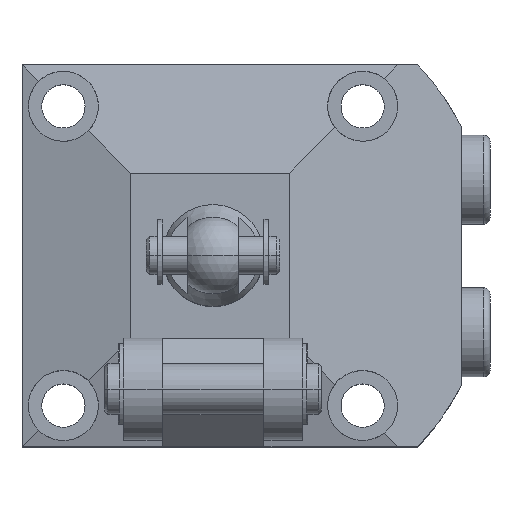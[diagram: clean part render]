
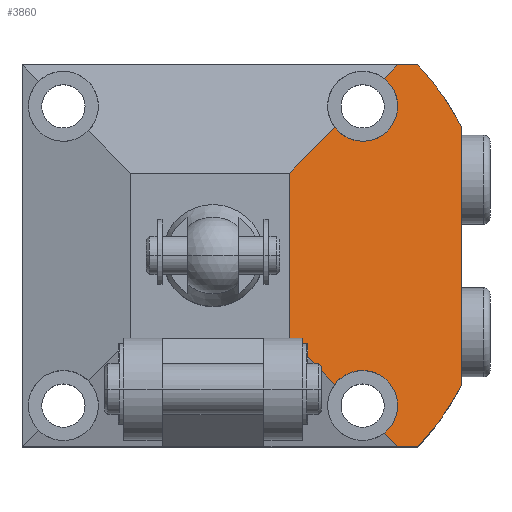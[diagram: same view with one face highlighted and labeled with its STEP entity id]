
A CAD part, top view. The second image highlights one B-rep face of the part: STEP entity #3860.
In plain terms, the highlighted planar face has unit normal (0.259, 0, 0.966).
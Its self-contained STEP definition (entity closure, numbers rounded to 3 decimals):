
#21 = ORIENTED_EDGE ( 'NONE', *, *, #3814, .T. ) ;
#28 =( BOUNDED_CURVE ( )  B_SPLINE_CURVE ( 3, ( #5653, #1275, #2536, #6872 ),
 .UNSPECIFIED., .F., .F. ) 
 B_SPLINE_CURVE_WITH_KNOTS ( ( 4, 4 ),
 ( 3.623, 3.892 ),
 .UNSPECIFIED. ) 
 CURVE ( )  GEOMETRIC_REPRESENTATION_ITEM ( )  RATIONAL_B_SPLINE_CURVE ( ( 1., 0.994, 0.994, 1. ) ) 
 REPRESENTATION_ITEM ( '' )  );
#111 = ORIENTED_EDGE ( 'NONE', *, *, #4269, .T. ) ;
#265 = CARTESIAN_POINT ( 'NONE',  ( 25.033, 26.033, 63.508 ) ) ;
#278 = EDGE_CURVE ( 'NONE', #1420, #844, #5187, .T. ) ;
#453 = DIRECTION ( 'NONE',  ( 0., -1., 0. ) ) ;
#518 = LINE ( 'NONE', #6997, #5329 ) ;
#574 = CARTESIAN_POINT ( 'NONE',  ( 26.857, 27.857, 63.019 ) ) ;
#591 = CARTESIAN_POINT ( 'NONE',  ( 28.233, -26.796, 62.65 ) ) ;
#732 = EDGE_LOOP ( 'NONE', ( #6107, #2506, #5637, #1609, #6755, #5541, #111, #2014, #21, #4357, #5908, #3096, #7916, #2403 ) ) ;
#757 = VERTEX_POINT ( 'NONE', #2388 ) ;
#833 =( BOUNDED_CURVE ( )  B_SPLINE_CURVE ( 3, ( #4918, #1153, #6760, #3057 ),
 .UNSPECIFIED., .F., .F. ) 
 B_SPLINE_CURVE_WITH_KNOTS ( ( 4, 4 ),
 ( 2.391, 2.66 ),
 .UNSPECIFIED. ) 
 CURVE ( )  GEOMETRIC_REPRESENTATION_ITEM ( )  RATIONAL_B_SPLINE_CURVE ( ( 1., 0.994, 0.994, 1. ) ) 
 REPRESENTATION_ITEM ( '' )  );
#844 = VERTEX_POINT ( 'NONE', #2247 ) ;
#864 = VECTOR ( 'NONE', #6509, 1000. ) ;
#897 = VERTEX_POINT ( 'NONE', #574 ) ;
#898 = LINE ( 'NONE', #4094, #7110 ) ;
#928 = DIRECTION ( 'NONE',  ( 0.695, -0.695, -0.186 ) ) ;
#1062 = LINE ( 'NONE', #7675, #4193 ) ;
#1127 = CARTESIAN_POINT ( 'NONE',  ( 29., -23.5, 62.445 ) ) ;
#1153 = CARTESIAN_POINT ( 'NONE',  ( 34.884, -27.106, 60.868 ) ) ;
#1275 = CARTESIAN_POINT ( 'NONE',  ( 37.169, 23.878, 60.256 ) ) ;
#1325 = PLANE ( 'NONE',  #7542 ) ;
#1397 = VERTEX_POINT ( 'NONE', #1127 ) ;
#1420 = VERTEX_POINT ( 'NONE', #6501 ) ;
#1423 = CARTESIAN_POINT ( 'NONE',  ( 12., 30.001, 67. ) ) ;
#1606 = DIRECTION ( 'NONE',  ( 0.966, 0., -0.259 ) ) ;
#1608 = EDGE_CURVE ( 'NONE', #2694, #6588, #518, .T. ) ;
#1609 = ORIENTED_EDGE ( 'NONE', *, *, #6841, .T. ) ;
#1973 = CARTESIAN_POINT ( 'NONE',  ( 29., 30., 62.445 ) ) ;
#1992 = CARTESIAN_POINT ( 'NONE',  ( 28.233, 26.796, 62.65 ) ) ;
#2014 = ORIENTED_EDGE ( 'NONE', *, *, #4738, .F. ) ;
#2032 = CARTESIAN_POINT ( 'NONE',  ( 29., 23.5, 62.445 ) ) ;
#2135 = EDGE_CURVE ( 'NONE', #1420, #3414, #2181, .T. ) ;
#2181 = LINE ( 'NONE', #5680, #5317 ) ;
#2247 = CARTESIAN_POINT ( 'NONE',  ( 12., -13., 67. ) ) ;
#2358 = CARTESIAN_POINT ( 'NONE',  ( 39., -20.372, 59.765 ) ) ;
#2388 = CARTESIAN_POINT ( 'NONE',  ( 32.187, 30., 61.591 ) ) ;
#2403 = ORIENTED_EDGE ( 'NONE', *, *, #2135, .F. ) ;
#2438 = VECTOR ( 'NONE', #453, 1000. ) ;
#2497 = VERTEX_POINT ( 'NONE', #7896 ) ;
#2499 = CARTESIAN_POINT ( 'NONE',  ( 29., -17.169, 62.445 ) ) ;
#2506 = ORIENTED_EDGE ( 'NONE', *, *, #6502, .T. ) ;
#2517 = VERTEX_POINT ( 'NONE', #5246 ) ;
#2536 = CARTESIAN_POINT ( 'NONE',  ( 34.884, 27.106, 60.868 ) ) ;
#2571 = CARTESIAN_POINT ( 'NONE',  ( 29., 23.5, 62.445 ) ) ;
#2594 = DIRECTION ( 'NONE',  ( -0.966, 0., 0.259 ) ) ;
#2617 = CARTESIAN_POINT ( 'NONE',  ( 26.857, -27.857, 63.019 ) ) ;
#2675 = VECTOR ( 'NONE', #1606, 1000. ) ;
#2694 = VERTEX_POINT ( 'NONE', #2617 ) ;
#2754 = DIRECTION ( 'NONE',  ( 0.695, -0.695, -0.186 ) ) ;
#2864 = VECTOR ( 'NONE', #928, 1000. ) ;
#2997 = CARTESIAN_POINT ( 'NONE',  ( 29., 23.5, 62.445 ) ) ;
#3057 = CARTESIAN_POINT ( 'NONE',  ( 39., -20.372, 59.765 ) ) ;
#3085 = CARTESIAN_POINT ( 'NONE',  ( 29., -25.237, 62.445 ) ) ;
#3096 = ORIENTED_EDGE ( 'NONE', *, *, #3950, .T. ) ;
#3223 = VERTEX_POINT ( 'NONE', #1973 ) ;
#3240 =( BOUNDED_CURVE ( )  B_SPLINE_CURVE ( 3, ( #3261, #1992, #5796, #2032 ),
 .UNSPECIFIED., .F., .T. ) 
 B_SPLINE_CURVE_WITH_KNOTS ( ( 4, 4 ),
 ( 2.227, 3.142 ),
 .UNSPECIFIED. ) 
 CURVE ( )  GEOMETRIC_REPRESENTATION_ITEM ( )  RATIONAL_B_SPLINE_CURVE ( ( 1., 0.932, 0.932, 1. ) ) 
 REPRESENTATION_ITEM ( '' )  );
#3261 = CARTESIAN_POINT ( 'NONE',  ( 26.857, 27.857, 63.019 ) ) ;
#3356 = DIRECTION ( 'NONE',  ( 0., -1., 0. ) ) ;
#3414 = VERTEX_POINT ( 'NONE', #5915 ) ;
#3814 = EDGE_CURVE ( 'NONE', #6662, #757, #28, .T. ) ;
#3843 = CARTESIAN_POINT ( 'NONE',  ( 19.143, 20.143, 65.086 ) ) ;
#3860 = ADVANCED_FACE ( 'NONE', ( #6908 ), #1325, .F. ) ;
#3950 = EDGE_CURVE ( 'NONE', #897, #7550, #3240, .T. ) ;
#4094 = CARTESIAN_POINT ( 'NONE',  ( 39., 30., 59.765 ) ) ;
#4193 = VECTOR ( 'NONE', #3356, 1000. ) ;
#4269 = EDGE_CURVE ( 'NONE', #2517, #7545, #833, .T. ) ;
#4357 = ORIENTED_EDGE ( 'NONE', *, *, #7350, .T. ) ;
#4733 = DIRECTION ( 'NONE',  ( -0.966, 0., 0.259 ) ) ;
#4738 = EDGE_CURVE ( 'NONE', #6662, #7545, #1062, .T. ) ;
#4824 = EDGE_CURVE ( 'NONE', #897, #3223, #7076, .T. ) ;
#4918 = CARTESIAN_POINT ( 'NONE',  ( 32.187, -30., 61.591 ) ) ;
#4967 = CARTESIAN_POINT ( 'NONE',  ( 26.857, -27.857, 63.019 ) ) ;
#5187 = LINE ( 'NONE', #1423, #2438 ) ;
#5246 = CARTESIAN_POINT ( 'NONE',  ( 32.187, -30., 61.591 ) ) ;
#5310 = CARTESIAN_POINT ( 'NONE',  ( 5.212, -6.212, 68.819 ) ) ;
#5317 = VECTOR ( 'NONE', #6167, 1000. ) ;
#5329 = VECTOR ( 'NONE', #2754, 1000. ) ;
#5363 = CARTESIAN_POINT ( 'NONE',  ( 39., -30., 59.765 ) ) ;
#5384 = CARTESIAN_POINT ( 'NONE',  ( 29., -30., 62.445 ) ) ;
#5401 =( BOUNDED_CURVE ( )  B_SPLINE_CURVE ( 3, ( #7411, #3085, #591, #4967 ),
 .UNSPECIFIED., .F., .F. ) 
 B_SPLINE_CURVE_WITH_KNOTS ( ( 4, 4 ),
 ( 3.142, 4.056 ),
 .UNSPECIFIED. ) 
 CURVE ( )  GEOMETRIC_REPRESENTATION_ITEM ( )  RATIONAL_B_SPLINE_CURVE ( ( 1., 0.932, 0.932, 1. ) ) 
 REPRESENTATION_ITEM ( '' )  );
#5445 = EDGE_CURVE ( 'NONE', #6588, #2517, #6383, .T. ) ;
#5455 = CARTESIAN_POINT ( 'NONE',  ( 39., 20.372, 59.765 ) ) ;
#5541 = ORIENTED_EDGE ( 'NONE', *, *, #5445, .T. ) ;
#5622 = CARTESIAN_POINT ( 'NONE',  ( 19.143, -20.143, 65.086 ) ) ;
#5637 = ORIENTED_EDGE ( 'NONE', *, *, #7689, .T. ) ;
#5653 = CARTESIAN_POINT ( 'NONE',  ( 39., 20.372, 59.765 ) ) ;
#5680 = CARTESIAN_POINT ( 'NONE',  ( 25.033, 26.033, 63.508 ) ) ;
#5717 = CARTESIAN_POINT ( 'NONE',  ( 39., 30.001, 59.765 ) ) ;
#5796 = CARTESIAN_POINT ( 'NONE',  ( 29., 25.237, 62.445 ) ) ;
#5908 = ORIENTED_EDGE ( 'NONE', *, *, #4824, .F. ) ;
#5915 = CARTESIAN_POINT ( 'NONE',  ( 19.143, 20.143, 65.086 ) ) ;
#6107 = ORIENTED_EDGE ( 'NONE', *, *, #278, .T. ) ;
#6167 = DIRECTION ( 'NONE',  ( 0.695, 0.695, -0.186 ) ) ;
#6231 = CARTESIAN_POINT ( 'NONE',  ( 23.007, -15.128, 64.051 ) ) ;
#6281 = EDGE_CURVE ( 'NONE', #7550, #3414, #6812, .T. ) ;
#6298 = CARTESIAN_POINT ( 'NONE',  ( 29., 17.169, 62.445 ) ) ;
#6314 = DIRECTION ( 'NONE',  ( -0.259, 0., -0.966 ) ) ;
#6383 = LINE ( 'NONE', #5363, #2675 ) ;
#6501 = CARTESIAN_POINT ( 'NONE',  ( 12., 13., 67. ) ) ;
#6502 = EDGE_CURVE ( 'NONE', #844, #2497, #7415, .T. ) ;
#6509 = DIRECTION ( 'NONE',  ( 0.695, 0.695, -0.186 ) ) ;
#6588 = VERTEX_POINT ( 'NONE', #5384 ) ;
#6662 = VERTEX_POINT ( 'NONE', #5455 ) ;
#6755 = ORIENTED_EDGE ( 'NONE', *, *, #1608, .T. ) ;
#6760 = CARTESIAN_POINT ( 'NONE',  ( 37.169, -23.878, 60.256 ) ) ;
#6812 =( BOUNDED_CURVE ( )  B_SPLINE_CURVE ( 3, ( #2571, #6298, #7530, #3843 ),
 .UNSPECIFIED., .F., .F. ) 
 B_SPLINE_CURVE_WITH_KNOTS ( ( 4, 4 ),
 ( 3.142, 5.627 ),
 .UNSPECIFIED. ) 
 CURVE ( )  GEOMETRIC_REPRESENTATION_ITEM ( )  RATIONAL_B_SPLINE_CURVE ( ( 1., 0.548, 0.548, 1. ) ) 
 REPRESENTATION_ITEM ( '' )  );
#6835 = CARTESIAN_POINT ( 'NONE',  ( 29., -23.5, 62.445 ) ) ;
#6841 = EDGE_CURVE ( 'NONE', #1397, #2694, #5401, .T. ) ;
#6872 = CARTESIAN_POINT ( 'NONE',  ( 32.187, 30., 61.591 ) ) ;
#6908 = FACE_OUTER_BOUND ( 'NONE', #732, .T. ) ;
#6997 = CARTESIAN_POINT ( 'NONE',  ( 5.212, -6.212, 68.819 ) ) ;
#7076 = LINE ( 'NONE', #265, #864 ) ;
#7110 = VECTOR ( 'NONE', #4733, 1000. ) ;
#7350 = EDGE_CURVE ( 'NONE', #757, #3223, #898, .T. ) ;
#7411 = CARTESIAN_POINT ( 'NONE',  ( 29., -23.5, 62.445 ) ) ;
#7415 = LINE ( 'NONE', #5310, #2864 ) ;
#7530 = CARTESIAN_POINT ( 'NONE',  ( 23.007, 15.128, 64.051 ) ) ;
#7542 = AXIS2_PLACEMENT_3D ( 'NONE', #5717, #6314, #2594 ) ;
#7545 = VERTEX_POINT ( 'NONE', #2358 ) ;
#7550 = VERTEX_POINT ( 'NONE', #2997 ) ;
#7675 = CARTESIAN_POINT ( 'NONE',  ( 39., 30.001, 59.765 ) ) ;
#7689 = EDGE_CURVE ( 'NONE', #2497, #1397, #7831, .T. ) ;
#7831 =( BOUNDED_CURVE ( )  B_SPLINE_CURVE ( 3, ( #5622, #6231, #2499, #6835 ),
 .UNSPECIFIED., .F., .F. ) 
 B_SPLINE_CURVE_WITH_KNOTS ( ( 4, 4 ),
 ( 0.656, 3.142 ),
 .UNSPECIFIED. ) 
 CURVE ( )  GEOMETRIC_REPRESENTATION_ITEM ( )  RATIONAL_B_SPLINE_CURVE ( ( 1., 0.548, 0.548, 1. ) ) 
 REPRESENTATION_ITEM ( '' )  );
#7896 = CARTESIAN_POINT ( 'NONE',  ( 19.143, -20.143, 65.086 ) ) ;
#7916 = ORIENTED_EDGE ( 'NONE', *, *, #6281, .T. ) ;
